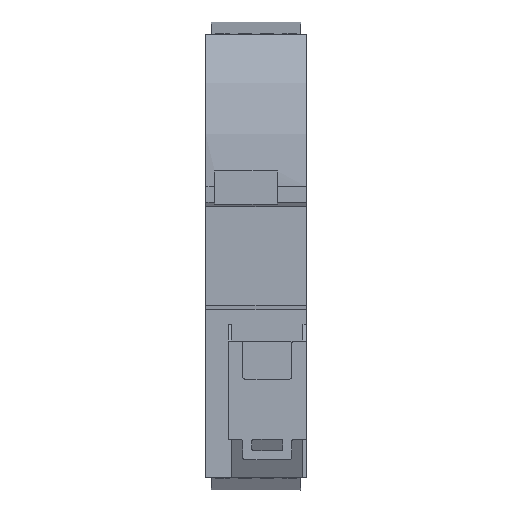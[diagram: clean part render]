
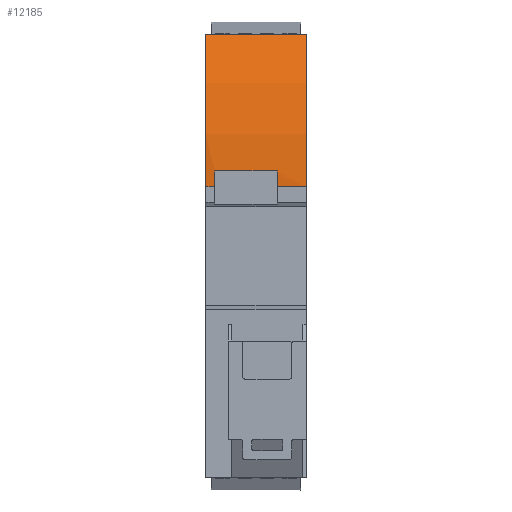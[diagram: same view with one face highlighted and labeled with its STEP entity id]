
A CAD part, left-side view. The second image highlights one B-rep face of the part: STEP entity #12185.
In plain terms, the highlighted cylindrical face has radius 69.868 mm (diameter 139.736 mm), a partial arc.
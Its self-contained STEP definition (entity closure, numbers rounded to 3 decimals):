
#1051 = CARTESIAN_POINT ( 'NONE',  ( 65.868, 6.5, 65.264 ) ) ;
#1197 = ORIENTED_EDGE ( 'NONE', *, *, #16161, .T. ) ;
#1241 = DIRECTION ( 'NONE',  ( 0., -1., 0. ) ) ;
#1592 = EDGE_CURVE ( 'NONE', #4739, #6531, #7943, .T. ) ;
#1848 = CARTESIAN_POINT ( 'NONE',  ( -3.926, 20.5, 68.5 ) ) ;
#1988 = CARTESIAN_POINT ( 'NONE',  ( -4., 20.5, 65. ) ) ;
#2815 = AXIS2_PLACEMENT_3D ( 'NONE', #1051, #1241, #22474 ) ;
#2866 = AXIS2_PLACEMENT_3D ( 'NONE', #19805, #17704, #11030 ) ;
#3227 = DIRECTION ( 'NONE',  ( 0., 1., 0. ) ) ;
#3370 = EDGE_CURVE ( 'NONE', #7543, #19979, #7332, .T. ) ;
#4034 = CARTESIAN_POINT ( 'NONE',  ( 4.684, 22.5, 99. ) ) ;
#4149 = DIRECTION ( 'NONE',  ( 0., 1., 0. ) ) ;
#4237 = ORIENTED_EDGE ( 'NONE', *, *, #1592, .T. ) ;
#4404 = VERTEX_POINT ( 'NONE', #18744 ) ;
#4739 = VERTEX_POINT ( 'NONE', #18344 ) ;
#4843 = CARTESIAN_POINT ( 'NONE',  ( -3.926, 6.5, 68.5 ) ) ;
#5537 = CARTESIAN_POINT ( 'NONE',  ( 65.868, 0., 65.264 ) ) ;
#6094 = FACE_OUTER_BOUND ( 'NONE', #17795, .T. ) ;
#6531 = VERTEX_POINT ( 'NONE', #1988 ) ;
#6600 = DIRECTION ( 'NONE',  ( 0., -1., 0. ) ) ;
#7317 = LINE ( 'NONE', #4034, #16384 ) ;
#7332 = LINE ( 'NONE', #26481, #24486 ) ;
#7543 = VERTEX_POINT ( 'NONE', #1848 ) ;
#7943 = LINE ( 'NONE', #17279, #11284 ) ;
#8419 = CARTESIAN_POINT ( 'NONE',  ( -4., 0., 65. ) ) ;
#9557 = DIRECTION ( 'NONE',  ( 0., 0., 1. ) ) ;
#10543 = DIRECTION ( 'NONE',  ( 0., -1., 0. ) ) ;
#11030 = DIRECTION ( 'NONE',  ( 0., 0., 1. ) ) ;
#11284 = VECTOR ( 'NONE', #6600, 1000. ) ;
#11472 = EDGE_CURVE ( 'NONE', #4739, #4404, #13553, .T. ) ;
#12185 = ADVANCED_FACE ( 'NONE', ( #6094 ), #24243, .T. ) ;
#12332 = CARTESIAN_POINT ( 'NONE',  ( 65.868, 20.5, 65.264 ) ) ;
#13461 = VECTOR ( 'NONE', #10543, 1000. ) ;
#13553 = CIRCLE ( 'NONE', #14123, 69.868 ) ;
#13800 = ORIENTED_EDGE ( 'NONE', *, *, #17650, .F. ) ;
#13855 = CARTESIAN_POINT ( 'NONE',  ( 4.684, 0., 99. ) ) ;
#14123 = AXIS2_PLACEMENT_3D ( 'NONE', #14925, #4149, #19274 ) ;
#14925 = CARTESIAN_POINT ( 'NONE',  ( 65.868, 22.5, 65.264 ) ) ;
#16071 = CIRCLE ( 'NONE', #21540, 69.868 ) ;
#16161 = EDGE_CURVE ( 'NONE', #19979, #26129, #17103, .T. ) ;
#16199 = EDGE_CURVE ( 'NONE', #19077, #25056, #16071, .T. ) ;
#16211 = ORIENTED_EDGE ( 'NONE', *, *, #24442, .T. ) ;
#16362 = CARTESIAN_POINT ( 'NONE',  ( -4., 0., 65. ) ) ;
#16384 = VECTOR ( 'NONE', #21324, 1000. ) ;
#16461 = DIRECTION ( 'NONE',  ( 0., 1., 0. ) ) ;
#16682 = ORIENTED_EDGE ( 'NONE', *, *, #11472, .F. ) ;
#17103 = CIRCLE ( 'NONE', #2815, 69.868 ) ;
#17191 = LINE ( 'NONE', #8419, #13461 ) ;
#17279 = CARTESIAN_POINT ( 'NONE',  ( -4., 0., 65. ) ) ;
#17297 = AXIS2_PLACEMENT_3D ( 'NONE', #12332, #16461, #18642 ) ;
#17650 = EDGE_CURVE ( 'NONE', #4404, #25056, #7317, .T. ) ;
#17704 = DIRECTION ( 'NONE',  ( 0., 1., 0. ) ) ;
#17795 = EDGE_LOOP ( 'NONE', ( #4237, #16211, #19829, #1197, #18513, #20189, #13800, #16682 ) ) ;
#18344 = CARTESIAN_POINT ( 'NONE',  ( -4., 22.5, 65. ) ) ;
#18513 = ORIENTED_EDGE ( 'NONE', *, *, #20397, .T. ) ;
#18642 = DIRECTION ( 'NONE',  ( 0., 0., 1. ) ) ;
#18744 = CARTESIAN_POINT ( 'NONE',  ( 4.684, 22.5, 99. ) ) ;
#19077 = VERTEX_POINT ( 'NONE', #16362 ) ;
#19274 = DIRECTION ( 'NONE',  ( 0., 0., 1. ) ) ;
#19805 = CARTESIAN_POINT ( 'NONE',  ( 65.868, 0., 65.264 ) ) ;
#19829 = ORIENTED_EDGE ( 'NONE', *, *, #3370, .T. ) ;
#19979 = VERTEX_POINT ( 'NONE', #4843 ) ;
#20189 = ORIENTED_EDGE ( 'NONE', *, *, #16199, .T. ) ;
#20397 = EDGE_CURVE ( 'NONE', #26129, #19077, #17191, .T. ) ;
#20424 = CIRCLE ( 'NONE', #17297, 69.868 ) ;
#21324 = DIRECTION ( 'NONE',  ( 0., -1., 0. ) ) ;
#21540 = AXIS2_PLACEMENT_3D ( 'NONE', #5537, #3227, #9557 ) ;
#22400 = DIRECTION ( 'NONE',  ( 0., -1., 0. ) ) ;
#22474 = DIRECTION ( 'NONE',  ( 0., 0., 1. ) ) ;
#24243 = CYLINDRICAL_SURFACE ( 'NONE', #2866, 69.868 ) ;
#24442 = EDGE_CURVE ( 'NONE', #6531, #7543, #20424, .T. ) ;
#24486 = VECTOR ( 'NONE', #22400, 1000. ) ;
#25056 = VERTEX_POINT ( 'NONE', #13855 ) ;
#26129 = VERTEX_POINT ( 'NONE', #26603 ) ;
#26481 = CARTESIAN_POINT ( 'NONE',  ( -3.926, 0., 68.5 ) ) ;
#26603 = CARTESIAN_POINT ( 'NONE',  ( -4., 6.5, 65. ) ) ;
